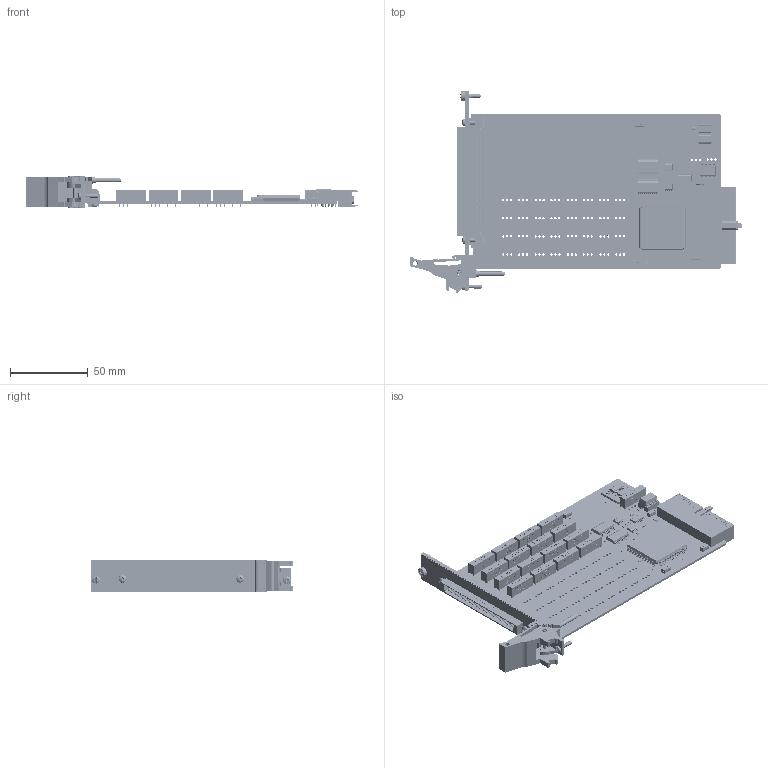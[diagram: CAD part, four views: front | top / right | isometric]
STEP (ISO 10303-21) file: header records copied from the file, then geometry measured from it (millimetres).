
FILE_DESCRIPTION (( 'STEP AP214' ), '1' );
FILE_NAME ('40-110-021 PXI 16 x SPDT Ruthenium Reed Relay.step', '2021-01-04T15:45:59', ( '' ), ( '' ), 'SwSTEP 2.0', 'SolidWorks 2019', '' );
FILE_SCHEMA (( 'AUTOMOTIVE_DESIGN' ));
Length unit declared in the file: millimetre
Products named in the file (40): C-CP-160 Cap 10uF 16V Tant Smt (C.CASE); A-PC-244-V01 PXI UCR X32 CONV; C-IC-090 IC EEPROM 2K 8SOIC_No Text; C-FX-101 Screw, M2.5 x 6, Pan Hd, Pozi, Steel, BZP_ISO 7045 - M2.5 x 6 - Z --- 6N; C-RS-102 RES 4x10R 1206 1-16W 5% 200PPM; C-IC-099 DIP8 Package_No Text; C-IC-124 16-Bit Constant Current Sink Driver; C-FX-165 Handle Body; L-FP-163 PXI 3U 1 Slot 96 Way FP Label Assy; C-BK-026 Bush Front Panel Mounting; C-PC-244 PXI UNCOMMITTED 33 X; C-BP-015 PXI 3U x 1 Slot Blank Panel; L-FX-165 PXI Handle Label; C-RS-079 Fixed Network Resistor, 10 kohm, 4 Elements, Isolated, 1206 IMP or 3216 Metric, 8 Pins; A-FP-163 FP + Label Assy; A-PC-244-# PXI UCR X32 CONV; C-CN-355 Compact pci connector 3; A-PC-1164-# UCN5832EP Replacement board; A-PC-1164 UCN5832EP Replacement board; C-RS-085 Res 150R 0805; L-FP-163-# PXI 3U 1 Slot 96 Way FP Label; C-CP-034; C-RL-057 TH RL 1C 35172 D PICKERING 107-1-C TH SD; P-FX-017 M2,5 Collar Posi-Slot Screw; C-FX-165 Handle Finger; C-IC-219 PCI Interface IC 32-bit 33MHz PCI Target; A-FP-163-L1 FP Full Assy; C-FX-165 Handle Pin; C-CN-035 SOCKET IC 8 WAY DIL low profil_Vychoz｡; C-IC-100 IC, with Clear, Non Inverted, Positive Edge, 12 ns, 37 MHz, 4 mA, SOIC_Without Pckage Description; C-FX-165 CPCI Ejector Handle; C-IC-305 SC70 5PIN SD; C-FP-163 PXI 3U 1-Slot 96-Way Connector; C-IC-056 Voltage Supervisor 8-Pin SOIC SMT_No Text; C-IC-087 IC TTL Gate 14-Pin SOIC_No Text; Z-FX-2001 FP Fixing - Bush + Screw; C-CN-379 96 Way Connector.Part; C-PC-1164 UCN5832EP Replacement board PCB; C-IC-101 IC 653 Octal-Channel Buffer & Line Driver 3-State 20-Pin SOIC_No Text; 40-110-021 PXI 16 x SPDT Ruthenium Reed Relay
Assembly tree (89 placements, depth 6):
  40-110-021 PXI 16 x SPDT Ruthenium Reed Relay
    A-PC-244-V01 PXI UCR X32 CONV
      A-PC-244-# PXI UCR X32 CONV
        C-PC-244 PXI UNCOMMITTED 33 X
        A-PC-1164 UCN5832EP Replacement board
          A-PC-1164-# UCN5832EP Replacement board
            C-PC-1164 UCN5832EP Replacement board PCB
            C-IC-305 SC70 5PIN SD
            C-CP-034  x4
            C-IC-124 16-Bit Constant Current Sink Driver  x2
        C-CN-355 Compact pci connector 3
        C-IC-219 PCI Interface IC 32-bit 33MHz PCI Target
        C-IC-087 IC TTL Gate 14-Pin SOIC_No Text
        C-IC-090 IC EEPROM 2K 8SOIC_No Text
        C-IC-100 IC, with Clear, Non Inverted, Positive Edge, 12 ns, 37 MHz, 4 mA, SOIC_Without Pckage Description
        C-IC-099 DIP8 Package_No Text
        C-CP-160 Cap 10uF 16V Tant Smt (C.CASE)  x4
        C-CP-034  x20
        C-RS-102 RES 4x10R 1206 1-16W 5% 200PPM
        C-RS-079 Fixed Network Resistor, 10 kohm, 4 Elements, Isolated, 1206 IMP or 3216 Metric, 8 Pins  x2
        C-CN-035 SOCKET IC 8 WAY DIL low profil_Vychoz｡
        C-RS-085 Res 150R 0805
        C-IC-056 Voltage Supervisor 8-Pin SOIC SMT_No Text
        C-IC-101 IC 653 Octal-Channel Buffer & Line Driver 3-State 20-Pin SOIC_No Text
      C-RL-057 TH RL 1C 35172 D PICKERING 107-1-C TH SD  x17
    A-FP-163-L1 FP Full Assy
      A-FP-163 FP + Label Assy
        C-FP-163 PXI 3U 1-Slot 96-Way Connector
          C-BP-015 PXI 3U x 1 Slot Blank Panel
        L-FP-163 PXI 3U 1 Slot 96 Way FP Label Assy
          L-FP-163-# PXI 3U 1 Slot 96 Way FP Label
      C-FX-165 CPCI Ejector Handle
        C-FX-165 Handle Body
        C-FX-165 Handle Finger
        C-FX-165 Handle Pin
        P-FX-017 M2,5 Collar Posi-Slot Screw
        L-FX-165 PXI Handle Label
      Z-FX-2001 FP Fixing - Bush + Screw
        C-BK-026 Bush Front Panel Mounting
        P-FX-017 M2,5 Collar Posi-Slot Screw
      C-FX-101 Screw, M2.5 x 6, Pan Hd, Pozi, Steel, BZP_ISO 7045 - M2.5 x 6 - Z --- 6N
    C-CN-379 96 Way Connector.Part
    C-FX-101 Screw, M2.5 x 6, Pan Hd, Pozi, Steel, BZP_ISO 7045 - M2.5 x 6 - Z --- 6N  x5
Bounding box: 213.7 x 129.63 x 20 mm (x, y, z)
Volume: 60327.1 mm3; surface area: 87669.8 mm2
Topology: 202 solids, 348 shells, 28214 faces, 75396 edges, 49743 vertices
Faces by surface type: plane 19590, bspline 4874, cylinder 3278, cone 386, torus 62, sphere 24
Entity records: 447021 total; most frequent: CARTESIAN_POINT 92541, ORIENTED_EDGE 57210, DIRECTION 54555, EDGE_CURVE 29173, LINE 22097, VECTOR 22097, VERTEX_POINT 19071, AXIS2_PLACEMENT_3D 16229
